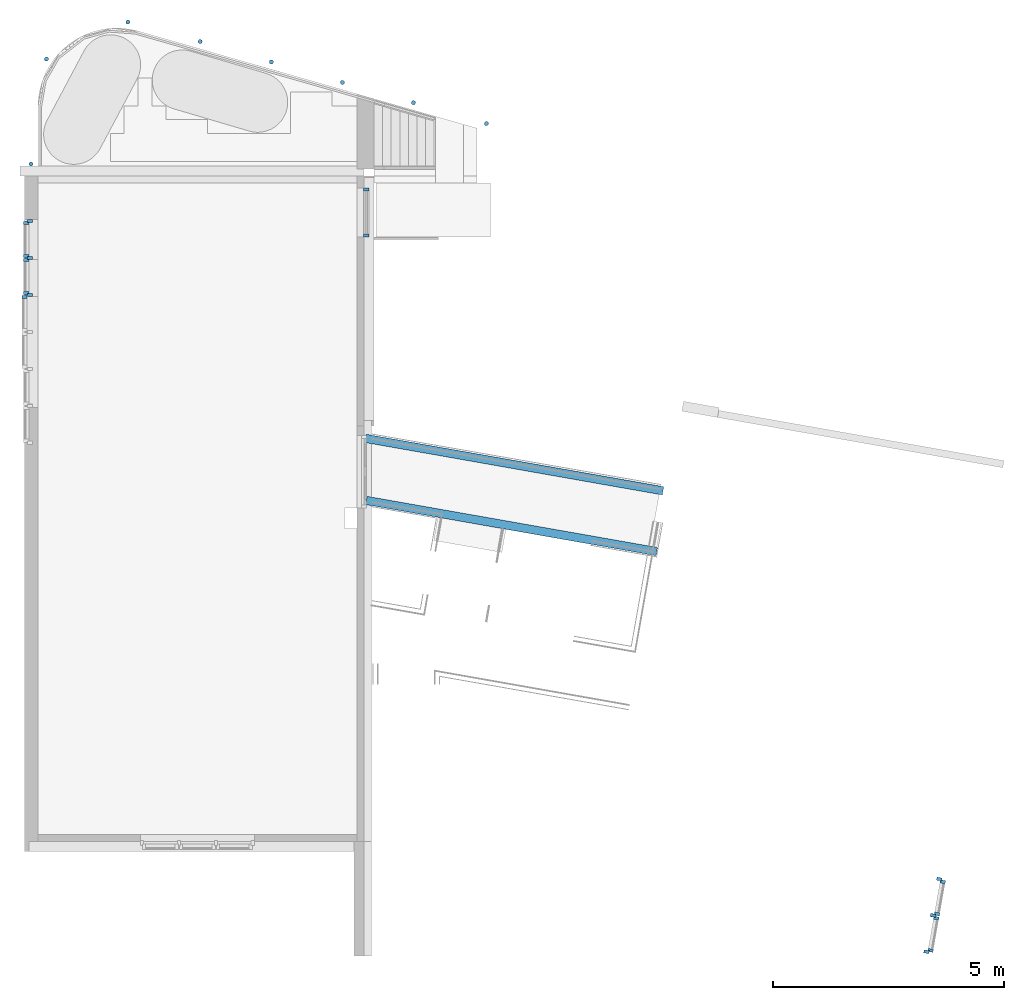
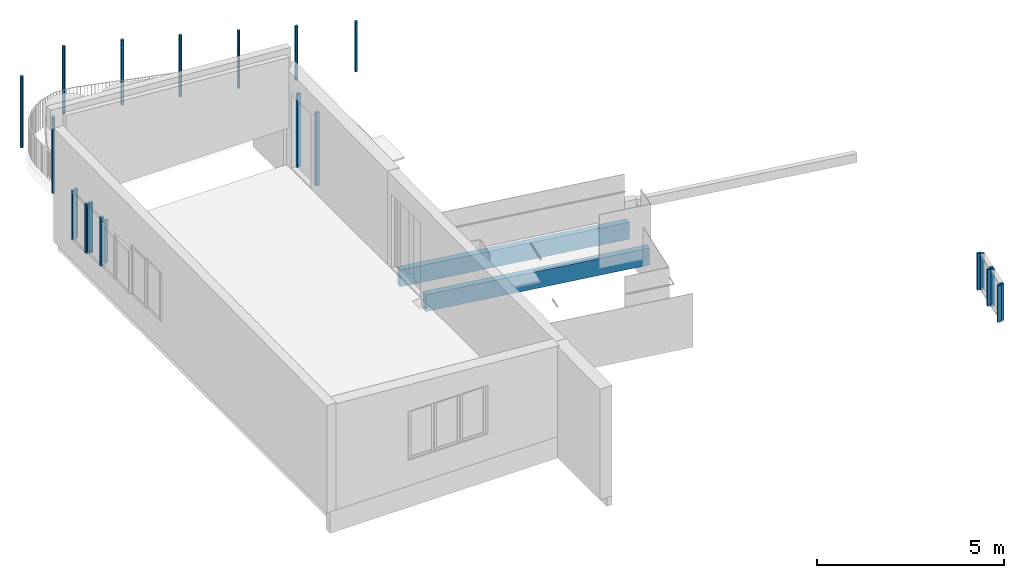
# One storey, part 2 of 9: 27 members, 2 beams, 14 elements without a shape of their own.
"""IFC2X3 building model written with IfcOpenShell, lengths in millimetres."""

from ifc_helpers import new_model, entity, si_unit, converted_unit, derived_unit, direction, frame, frame_2d, origin, origin_2d_with_axis, place, context, subcontext, project, spatial, polyline, rectangle, circle, outline, extrude, source, transform, mapped, material, type_object, type_shapes, element, aggregate, save


model = new_model("IFC2X3")

# Units and contexts
model_context = context("Model", 3, precision=0.01, world=origin(), true_north=direction((6.12303176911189e-17, 1.0)))
body_context = subcontext(model_context, "Body", "Model", "MODEL_VIEW")
ifc_project = project(units=[si_unit("LENGTHUNIT", "METRE", prefix="MILLI"), si_unit("AREAUNIT", "SQUARE_METRE"), si_unit("VOLUMEUNIT", "CUBIC_METRE"), converted_unit("PLANEANGLEUNIT", "DEGREE", entity("IfcRatioMeasure", 0.0174532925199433), si_unit("PLANEANGLEUNIT", "RADIAN"), dimensions=[0, 0, 0, 0, 0, 0, 0]), si_unit("MASSUNIT", "GRAM", prefix="KILO"), derived_unit("MASSDENSITYUNIT", [(si_unit("MASSUNIT", "GRAM", prefix="KILO"), 1), (si_unit("LENGTHUNIT", "METRE"), -3)]), si_unit("TIMEUNIT", "SECOND"), si_unit("FREQUENCYUNIT", "HERTZ"), si_unit("THERMODYNAMICTEMPERATUREUNIT", "DEGREE_CELSIUS"), derived_unit("THERMALTRANSMITTANCEUNIT", [(si_unit("MASSUNIT", "GRAM", prefix="KILO"), 1), (si_unit("THERMODYNAMICTEMPERATUREUNIT", "KELVIN"), -1), (si_unit("TIMEUNIT", "SECOND"), -3)]), derived_unit("VOLUMETRICFLOWRATEUNIT", [(si_unit("LENGTHUNIT", "METRE"), 3), (si_unit("TIMEUNIT", "SECOND"), -1)]), si_unit("ELECTRICCURRENTUNIT", "AMPERE"), si_unit("ELECTRICVOLTAGEUNIT", "VOLT"), si_unit("POWERUNIT", "WATT"), si_unit("FORCEUNIT", "NEWTON", prefix="KILO"), si_unit("ILLUMINANCEUNIT", "LUX"), si_unit("LUMINOUSFLUXUNIT", "LUMEN"), si_unit("LUMINOUSINTENSITYUNIT", "CANDELA"), derived_unit("USERDEFINED", [(si_unit("MASSUNIT", "GRAM", prefix="KILO"), -1), (si_unit("LENGTHUNIT", "METRE"), -2), (si_unit("TIMEUNIT", "SECOND"), 3), (si_unit("LUMINOUSFLUXUNIT", "LUMEN"), 1)]), derived_unit("LINEARVELOCITYUNIT", [(si_unit("LENGTHUNIT", "METRE"), 1), (si_unit("TIMEUNIT", "SECOND"), -1)]), si_unit("PRESSUREUNIT", "PASCAL"), derived_unit("USERDEFINED", [(si_unit("LENGTHUNIT", "METRE"), -2), (si_unit("MASSUNIT", "GRAM", prefix="KILO"), 1), (si_unit("TIMEUNIT", "SECOND"), -2)])], contexts=[model_context])

# Site, building, storey
site_placement = place(None, origin())
site = spatial("IfcSite", under=ifc_project, at=site_placement, Name="<Kadaster Gemeente>;<Kadaster nummer>;<Kadaster sectie>", CompositionType="ELEMENT")
building_placement = place(site_placement, origin())
building = spatial("IfcBuilding", under=site, at=building_placement, Name="JRCZ Middelburg", CompositionType="ELEMENT")
storey_placement = place(building_placement, frame((0.0, 0.0, 3700.0)))
storey = spatial("IfcBuildingStorey", under=building, at=storey_placement, Name="02 tweede verdieping", CompositionType="ELEMENT", Elevation=3700.0)

# Beams
ifc_material_1 = material(Name="Softwood, Lumber")
beam_type = type_object("IfcBeamType", Name="180x550", PredefinedType="BEAM")
beam_1_placement = place(storey_placement, frame((23427.5457609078, 16290.1481056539, 100.0), z_axis=(0.0, 0.0, 1.0), x_axis=(-0.984837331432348, 0.173480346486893, 0.0)))
element("IfcBeam", 1, at=beam_1_placement, inside=storey, type_object=beam_type, material=ifc_material_1, Name="M_Dimension Lumber:180x550", ObjectType="M_Dimension Lumber:180x550", context=body_context, shape_type="SweptSolid", body=[
    extrude(rectangle(XDim=550.0, YDim=180.000000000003, at=frame_2d((-5.40012479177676e-13, -3.76587649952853e-13), x_axis=(1.0, 0.0))), frame((-111.759709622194, 0.0, -425.0), z_axis=(1.0, 0.0, 0.0), x_axis=(0.0, 0.0, -1.0)), (0.0, 0.0, 1.0), 6377.85981919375),
])
beam_2_placement = place(storey_placement, frame((23671.9398573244, 17585.4193425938, 100.0), z_axis=(0.0, 0.0, 1.0), x_axis=(-0.984807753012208, 0.173648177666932, 0.0)))
element("IfcBeam", 2, at=beam_2_placement, inside=storey, type_object=beam_type, material=ifc_material_1, Name="M_Dimension Lumber:180x550", ObjectType="M_Dimension Lumber:180x550", context=body_context, shape_type="SweptSolid", body=[
    extrude(rectangle(XDim=550.0, YDim=180.000000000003, at=frame_2d((-5.40012479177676e-13, 2.1316282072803e-12), x_axis=(1.0, 0.0))), frame((0.0, 0.0, -425.0), z_axis=(1.0, 0.0, 0.0), x_axis=(0.0, 0.0, -1.0)), (0.0, 0.0, 1.0), 6533.0971955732),
])

# Curtain wall, members
curtain_wall_type_1 = type_object("IfcCurtainWallType", Name="Curtain Wall:NLRS_31_CW_Ontwerpkozijn 067x114", PredefinedType="NOTDEFINED")
curtain_wall_1_placement = place(storey_placement, frame((0.0, 0.0, -3700.0)))
curtain_wall_1 = element("IfcCurtainWall", 3, at=curtain_wall_1_placement, inside=storey, type_object=curtain_wall_type_1, Name="Curtain Wall:NLRS_31_CW_Ontwerpkozijn 067x114", ObjectType="Curtain Wall:NLRS_31_CW_Ontwerpkozijn 067x114")
ifc_material_2 = material(Name="RBM_a_kozijn")
member_type_1 = type_object("IfcMemberType", Name="31_CWM_067x114", PredefinedType="MEMBER")
shared_shape_1 = source(origin(), body_context, "Body", "SweptSolid", [
    extrude(rectangle(XDim=113.999999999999, YDim=67.0, at=origin_2d_with_axis()), frame((-33.5, -57.0, -2400.0), z_axis=(0.0, 0.0, 1.0), x_axis=(0.0, -1.0, 0.0)), (0.0, 0.0, 1.0), 2400.0),
])
type_shapes(member_type_1, [shared_shape_1])
member_1_placement = place(storey_placement, frame((17197.0, 23074.0, 0.0), z_axis=(0.0, 0.0, -1.0), x_axis=(0.0, -1.0, 0.0)))
member_1 = element("IfcMember", 4, at=member_1_placement, type_object=member_type_1, material=ifc_material_2, Name="Rectangular Mullion:31_CWM_067x114", ObjectType="Rectangular Mullion:31_CWM_067x114", context=body_context, shape_type="MappedRepresentation", body=[
    mapped(shared_shape_1, transform((0.0, 0.0, 0.0), scale=1.0)),
])
member_type_2 = type_object("IfcMemberType", Name="31_CWM_067x114", PredefinedType="MEMBER")
shared_shape_2 = source(origin(), body_context, "Body", "SweptSolid", [
    extrude(rectangle(XDim=113.999999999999, YDim=67.0, at=origin_2d_with_axis()), frame((-33.5, -57.0, -2400.0), z_axis=(0.0, 0.0, 1.0), x_axis=(0.0, -1.0, 0.0)), (0.0, 0.0, 1.0), 2400.0),
])
type_shapes(member_type_2, [shared_shape_2])
member_2_placement = place(storey_placement, frame((17197.0, 24138.0, 2400.0), z_axis=(0.0, 0.0, 1.0), x_axis=(0.0, 1.0, 0.0)))
member_2 = element("IfcMember", 5, at=member_2_placement, type_object=member_type_2, material=ifc_material_2, Name="Rectangular Mullion:31_CWM_067x114", ObjectType="Rectangular Mullion:31_CWM_067x114", context=body_context, shape_type="MappedRepresentation", body=[
    mapped(shared_shape_2, transform((0.0, 0.0, 0.0), scale=1.0)),
])
aggregate(curtain_wall_1, [member_1, member_2])

curtain_wall_type_2 = type_object("IfcCurtainWallType", PredefinedType="NOTDEFINED")
curtain_wall_2_placement = place(storey_placement, frame((0.0, 0.0, -3700.0)))
curtain_wall_2 = element("IfcCurtainWall", 6, at=curtain_wall_2_placement, inside=storey, type_object=curtain_wall_type_2)
ifc_material_3 = material(Name="RBM_i2_binnenkozijn")
member_type_3 = type_object("IfcMemberType", Name="32_CWM_067x114", PredefinedType="MEMBER")
shared_shape_3 = source(origin(), body_context, "Body", "SweptSolid", [
    extrude(rectangle(XDim=113.999999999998, YDim=67.0000000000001, at=frame_2d((2.22399876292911e-12, -1.56319401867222e-13), x_axis=(1.0, 0.0))), frame((29373.0265848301, 7613.96088318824, 4400.0), z_axis=(0.0, 0.0, 1.0), x_axis=(-0.984807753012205, 0.17364817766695, 0.0)), (0.0, 0.0, 1.0), 1200.0),
])
type_shapes(member_type_3, [shared_shape_3])
member_3_placement = place(storey_placement, frame((0.0, 0.0, -3700.0)))
member_3 = element("IfcMember", 7, at=member_3_placement, type_object=member_type_3, material=ifc_material_3, Name="Rectangular Mullion:32_CWM_067x114", ObjectType="Rectangular Mullion:32_CWM_067x114", context=body_context, shape_type="MappedRepresentation", body=[
    mapped(shared_shape_3, transform((0.0, 0.0, 0.0), scale=1.0)),
])
member_type_4 = type_object("IfcMemberType", Name="32_CWM_067x114", PredefinedType="MEMBER")
shared_shape_4 = source(origin(), body_context, "Body", "SweptSolid", [
    extrude(rectangle(XDim=113.999999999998, YDim=67.0000000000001, at=frame_2d((2.22399876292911e-12, -1.56319401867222e-13), x_axis=(1.0, 0.0))), frame((29511.250534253, 8397.86785458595, 4400.0), z_axis=(0.0, 0.0, 1.0), x_axis=(-0.984807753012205, 0.17364817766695, 0.0)), (0.0, 0.0, 1.0), 1200.0),
])
type_shapes(member_type_4, [shared_shape_4])
member_4_placement = place(storey_placement, frame((0.0, 0.0, -3700.0)))
member_4 = element("IfcMember", 8, at=member_4_placement, type_object=member_type_4, material=ifc_material_3, Name="Rectangular Mullion:32_CWM_067x114", ObjectType="Rectangular Mullion:32_CWM_067x114", context=body_context, shape_type="MappedRepresentation", body=[
    mapped(shared_shape_4, transform((0.0, 0.0, 0.0), scale=1.0)),
])
aggregate(curtain_wall_2, [member_3, member_4])

curtain_wall_type_3 = type_object("IfcCurtainWallType", Name="Curtain Wall:NLRS_31_CW_Ontwerpkozijn 067x114 2", PredefinedType="NOTDEFINED")
curtain_wall_3_placement = place(storey_placement, frame((0.0, 0.0, -3700.0)))
curtain_wall_3 = element("IfcCurtainWall", 9, at=curtain_wall_3_placement, inside=storey, type_object=curtain_wall_type_3, Name="Curtain Wall:NLRS_31_CW_Ontwerpkozijn 067x114 2", ObjectType="Curtain Wall:NLRS_31_CW_Ontwerpkozijn 067x114 2")
member_type_5 = type_object("IfcMemberType", Name="31_CWM_067x114", PredefinedType="MEMBER")
shared_shape_5 = source(origin(), body_context, "Body", "SweptSolid", [
    extrude(outline(polyline([(-37.0, -65.3333333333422), (30.0, -65.3333333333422), (30.0, 16.6666666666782), (7.0, 16.6666666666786), (7.0, 48.6666666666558), (-37.0, 48.6666666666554), (-37.0, -65.3333333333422)])), frame((29576.7652875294, 8345.19105816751, 4400.0), z_axis=(0.0, 0.0, 1.0), x_axis=(0.173648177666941, 0.984807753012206, 0.0)), (0.0, 0.0, 1.0), 1200.0),
])
type_shapes(member_type_5, [shared_shape_5])
member_5_placement = place(storey_placement, frame((0.0, 0.0, -3700.0)))
member_5 = element("IfcMember", 10, at=member_5_placement, type_object=member_type_5, material=ifc_material_2, Name="Rectangular Mullion:31_CWM_067x114", ObjectType="Rectangular Mullion:31_CWM_067x114", context=body_context, shape_type="MappedRepresentation", body=[
    mapped(shared_shape_5, transform((0.0, 0.0, 0.0), scale=1.0)),
])
member_type_6 = type_object("IfcMemberType", Name="31_CWM_067x114", PredefinedType="MEMBER")
shared_shape_6 = source(origin(), body_context, "Body", "SweptSolid", [
    extrude(outline(polyline([(-30.0, -65.3333333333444), (37.0, -65.3333333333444), (37.0, 48.6666666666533), (-7.0, 48.666666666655), (-7.0, 16.6666666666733), (-30.0, 16.666666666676), (-30.0, -65.3333333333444)])), frame((29452.6068404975, 7641.05351476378, 4400.0), z_axis=(0.0, 0.0, 1.0), x_axis=(0.173648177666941, 0.984807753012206, 0.0)), (0.0, 0.0, 1.0), 1200.0),
])
type_shapes(member_type_6, [shared_shape_6])
member_6_placement = place(storey_placement, frame((0.0, 0.0, -3700.0)))
member_6 = element("IfcMember", 11, at=member_6_placement, type_object=member_type_6, material=ifc_material_2, Name="Rectangular Mullion:31_CWM_067x114", ObjectType="Rectangular Mullion:31_CWM_067x114", context=body_context, shape_type="MappedRepresentation", body=[
    mapped(shared_shape_6, transform((0.0, 0.0, 0.0), scale=1.0)),
])
aggregate(curtain_wall_3, [member_5, member_6])

curtain_wall_4_placement = place(storey_placement, frame((0.0, 0.0, -3700.0)))
curtain_wall_4 = element("IfcCurtainWall", 12, at=curtain_wall_4_placement, inside=storey, type_object=curtain_wall_type_2)
member_type_7 = type_object("IfcMemberType", Name="32_CWM_067x114", PredefinedType="MEMBER")
shared_shape_7 = source(origin(), body_context, "Body", "SweptSolid", [
    extrude(rectangle(XDim=113.999999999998, YDim=67.0000000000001, at=frame_2d((-2.22399876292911e-12, 1.56319401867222e-13), x_axis=(1.0, 0.0))), frame((29511.9451269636, 8401.80708559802, 4400.0), z_axis=(0.0, 0.0, 1.0), x_axis=(-0.984807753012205, 0.17364817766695, 0.0)), (0.0, 0.0, 1.0), 1200.0),
])
type_shapes(member_type_7, [shared_shape_7])
member_7_placement = place(storey_placement, frame((0.0, 0.0, -3700.0)))
member_7 = element("IfcMember", 13, at=member_7_placement, type_object=member_type_7, material=ifc_material_3, Name="Rectangular Mullion:32_CWM_067x114", ObjectType="Rectangular Mullion:32_CWM_067x114", context=body_context, shape_type="MappedRepresentation", body=[
    mapped(shared_shape_7, transform((0.0, 0.0, 0.0), scale=1.0)),
])
member_type_8 = type_object("IfcMemberType", Name="32_CWM_067x114", PredefinedType="MEMBER")
shared_shape_8 = source(origin(), body_context, "Body", "SweptSolid", [
    extrude(rectangle(XDim=113.999999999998, YDim=67.0000000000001, at=frame_2d((2.03925765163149e-12, 9.09494701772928e-13), x_axis=(1.0, 0.0))), frame((29650.1690763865, 9185.71405699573, 4400.0), z_axis=(0.0, 0.0, 1.0), x_axis=(-0.984807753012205, 0.17364817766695, 0.0)), (0.0, 0.0, 1.0), 1200.0),
])
type_shapes(member_type_8, [shared_shape_8])
member_8_placement = place(storey_placement, frame((0.0, 0.0, -3700.0)))
member_8 = element("IfcMember", 14, at=member_8_placement, type_object=member_type_8, material=ifc_material_3, Name="Rectangular Mullion:32_CWM_067x114", ObjectType="Rectangular Mullion:32_CWM_067x114", context=body_context, shape_type="MappedRepresentation", body=[
    mapped(shared_shape_8, transform((0.0, 0.0, 0.0), scale=1.0)),
])
aggregate(curtain_wall_4, [member_7, member_8])

curtain_wall_5_placement = place(storey_placement, frame((0.0, 0.0, -3700.0)))
curtain_wall_5 = element("IfcCurtainWall", 15, at=curtain_wall_5_placement, inside=storey, type_object=curtain_wall_type_3, Name="Curtain Wall:NLRS_31_CW_Ontwerpkozijn 067x114 2", ObjectType="Curtain Wall:NLRS_31_CW_Ontwerpkozijn 067x114 2")
member_type_9 = type_object("IfcMemberType", Name="31_CWM_067x114", PredefinedType="MEMBER")
shared_shape_9 = source(origin(), body_context, "Body", "SweptSolid", [
    extrude(outline(polyline([(-37.0, -65.3333333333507), (30.0, -65.3333333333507), (30.0, 16.6666666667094), (7.0, 16.6666666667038), (7.0, 48.6666666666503), (-37.0, 48.6666666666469), (-37.0, -65.3333333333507)])), frame((29715.6838296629, 9133.03726057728, 4400.0), z_axis=(0.0, 0.0, 1.0), x_axis=(0.173648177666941, 0.984807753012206, 0.0)), (0.0, 0.0, 1.0), 1200.0),
])
type_shapes(member_type_9, [shared_shape_9])
member_9_placement = place(storey_placement, frame((0.0, 0.0, -3700.0)))
member_9 = element("IfcMember", 16, at=member_9_placement, type_object=member_type_9, material=ifc_material_2, Name="Rectangular Mullion:31_CWM_067x114", ObjectType="Rectangular Mullion:31_CWM_067x114", context=body_context, shape_type="MappedRepresentation", body=[
    mapped(shared_shape_9, transform((0.0, 0.0, 0.0), scale=1.0)),
])
member_type_10 = type_object("IfcMemberType", Name="31_CWM_067x114", PredefinedType="MEMBER")
shared_shape_10 = source(origin(), body_context, "Body", "SweptSolid", [
    extrude(outline(polyline([(-30.0, -65.3333333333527), (37.0, -65.3333333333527), (37.0, 48.6666666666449), (-7.0, 48.6666666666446), (-7.0, 16.6666666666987), (-30.0, 16.6666666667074), (-30.0, -65.3333333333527)])), frame((29591.525382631, 8428.89971717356, 4400.0), z_axis=(0.0, 0.0, 1.0), x_axis=(0.173648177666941, 0.984807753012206, 0.0)), (0.0, 0.0, 1.0), 1200.0),
])
type_shapes(member_type_10, [shared_shape_10])
member_10_placement = place(storey_placement, frame((0.0, 0.0, -3700.0)))
member_10 = element("IfcMember", 17, at=member_10_placement, type_object=member_type_10, material=ifc_material_2, Name="Rectangular Mullion:31_CWM_067x114", ObjectType="Rectangular Mullion:31_CWM_067x114", context=body_context, shape_type="MappedRepresentation", body=[
    mapped(shared_shape_10, transform((0.0, 0.0, 0.0), scale=1.0)),
])
aggregate(curtain_wall_5, [member_9, member_10])

# Curtain wall, member
curtain_wall_6_placement = place(storey_placement, frame((0.0, 0.0, -3700.0)))
curtain_wall_6 = element("IfcCurtainWall", 18, at=curtain_wall_6_placement, inside=storey, type_object=curtain_wall_type_2)
member_type_11 = type_object("IfcMemberType", Name="32_CWM_067x114", PredefinedType="MEMBER")
shared_shape_11 = source(origin(), body_context, "Body", "SweptSolid", [
    extrude(rectangle(XDim=67.0000000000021, YDim=114.0, at=origin_2d_with_axis()), frame((9980.0, 22620.8639489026, 4400.0), z_axis=(0.0, 0.0, 1.0), x_axis=(0.0, -1.0, 0.0)), (0.0, 0.0, 1.0), 1600.0),
])
type_shapes(member_type_11, [shared_shape_11])
member_11_placement = place(storey_placement, frame((0.0, 0.0, -3700.0)))
member_11 = element("IfcMember", 19, at=member_11_placement, type_object=member_type_11, material=ifc_material_3, Name="Rectangular Mullion:32_CWM_067x114", ObjectType="Rectangular Mullion:32_CWM_067x114", context=body_context, shape_type="MappedRepresentation", body=[
    mapped(shared_shape_11, transform((0.0, 0.0, 0.0), scale=1.0)),
])
aggregate(curtain_wall_6, [member_11])

# Curtain wall, members
curtain_wall_7_placement = place(storey_placement, frame((0.0, 0.0, -3700.0)))
curtain_wall_7 = element("IfcCurtainWall", 20, at=curtain_wall_7_placement, inside=storey, type_object=curtain_wall_type_3, Name="Curtain Wall:NLRS_31_CW_Ontwerpkozijn 067x114 2", ObjectType="Curtain Wall:NLRS_31_CW_Ontwerpkozijn 067x114 2")
member_type_12 = type_object("IfcMemberType", Name="31_CWM_067x114", PredefinedType="MEMBER")
shared_shape_12 = source(origin(), body_context, "Body", "SweptSolid", [
    extrude(outline(polyline([(-37.0, -65.3333333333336), (30.0, -65.3333333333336), (30.0, 16.666666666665), (7.0, 16.666666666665), (7.0, 48.6666666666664), (-37.0, 48.6666666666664), (-37.0, -65.3333333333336)])), frame((9906.33333333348, 21865.3639489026, 4400.0), z_axis=(0.0, 0.0, 1.0), x_axis=(0.0, -1.0, 0.0)), (0.0, 0.0, 1.0), 1600.0),
])
type_shapes(member_type_12, [shared_shape_12])
member_12_placement = place(storey_placement, frame((0.0, 0.0, -3700.0)))
member_12 = element("IfcMember", 21, at=member_12_placement, type_object=member_type_12, material=ifc_material_2, Name="Rectangular Mullion:31_CWM_067x114", ObjectType="Rectangular Mullion:31_CWM_067x114", context=body_context, shape_type="MappedRepresentation", body=[
    mapped(shared_shape_12, transform((0.0, 0.0, 0.0), scale=1.0)),
])
member_type_13 = type_object("IfcMemberType", Name="31_CWM_067x114", PredefinedType="MEMBER")
shared_shape_13 = source(origin(), body_context, "Body", "SweptSolid", [
    extrude(outline(polyline([(-30.0, -65.3333333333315), (37.0, -65.3333333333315), (37.0, 48.6666666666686), (-7.0, 48.6666666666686), (-7.0, 16.6666666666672), (-30.0, 16.6666666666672), (-30.0, -65.3333333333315)])), frame((9906.33333333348, 22580.3639489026, 4400.0), z_axis=(0.0, 0.0, 1.0), x_axis=(0.0, -1.0, 0.0)), (0.0, 0.0, 1.0), 1600.0),
])
type_shapes(member_type_13, [shared_shape_13])
member_13_placement = place(storey_placement, frame((0.0, 0.0, -3700.0)))
member_13 = element("IfcMember", 22, at=member_13_placement, type_object=member_type_13, material=ifc_material_2, Name="Rectangular Mullion:31_CWM_067x114", ObjectType="Rectangular Mullion:31_CWM_067x114", context=body_context, shape_type="MappedRepresentation", body=[
    mapped(shared_shape_13, transform((0.0, 0.0, 0.0), scale=1.0)),
])
aggregate(curtain_wall_7, [member_12, member_13])

# Curtain wall, member
curtain_wall_8_placement = place(storey_placement, frame((0.0, 0.0, -3700.0)))
curtain_wall_8 = element("IfcCurtainWall", 23, at=curtain_wall_8_placement, inside=storey, type_object=curtain_wall_type_2)
member_type_14 = type_object("IfcMemberType", Name="32_CWM_067x114", PredefinedType="MEMBER")
shared_shape_14 = source(origin(), body_context, "Body", "SweptSolid", [
    extrude(rectangle(XDim=67.0000000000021, YDim=114.0, at=frame_2d((0.0, 1.08002495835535e-12), x_axis=(1.0, 0.0))), frame((9980.0, 21820.8639489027, 4500.0), z_axis=(0.0, 0.0, 1.0), x_axis=(0.0, -1.0, 0.0)), (0.0, 0.0, 1.0), 1400.0),
])
type_shapes(member_type_14, [shared_shape_14])
member_14_placement = place(storey_placement, frame((0.0, 0.0, -3700.0)))
member_14 = element("IfcMember", 24, at=member_14_placement, type_object=member_type_14, material=ifc_material_3, Name="Rectangular Mullion:32_CWM_067x114", ObjectType="Rectangular Mullion:32_CWM_067x114", context=body_context, shape_type="MappedRepresentation", body=[
    mapped(shared_shape_14, transform((0.0, 0.0, 0.0), scale=1.0)),
])
aggregate(curtain_wall_8, [member_14])

curtain_wall_9_placement = place(storey_placement, frame((0.0, 0.0, -3700.0)))
curtain_wall_9 = element("IfcCurtainWall", 25, at=curtain_wall_9_placement, inside=storey, type_object=curtain_wall_type_3, Name="Curtain Wall:NLRS_31_CW_Ontwerpkozijn 067x114 2", ObjectType="Curtain Wall:NLRS_31_CW_Ontwerpkozijn 067x114 2")
member_type_15 = type_object("IfcMemberType", Name="31_CWM_067x114", PredefinedType="MEMBER")
shared_shape_15 = source(origin(), body_context, "Body", "SweptSolid", [
    extrude(rectangle(XDim=67.0000000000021, YDim=114.0, at=frame_2d((2.16360263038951e-12, 1.08002495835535e-12), x_axis=(1.0, 0.0))), frame((9858.0, 21776.8639489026, 4500.0), z_axis=(0.0, 0.0, 1.0), x_axis=(0.0, -1.0, 0.0)), (0.0, 0.0, 1.0), 1400.0),
])
type_shapes(member_type_15, [shared_shape_15])
member_15_placement = place(storey_placement, frame((0.0, 0.0, -3700.0)))
member_15 = element("IfcMember", 26, at=member_15_placement, type_object=member_type_15, material=ifc_material_2, Name="Rectangular Mullion:31_CWM_067x114", ObjectType="Rectangular Mullion:31_CWM_067x114", context=body_context, shape_type="MappedRepresentation", body=[
    mapped(shared_shape_15, transform((0.0, 0.0, 0.0), scale=1.0)),
])
aggregate(curtain_wall_9, [member_15])

# Curtain wall, members
curtain_wall_10_placement = place(storey_placement, frame((0.0, 0.0, -3700.0)))
curtain_wall_10 = element("IfcCurtainWall", 27, at=curtain_wall_10_placement, inside=storey, type_object=curtain_wall_type_2)
member_type_16 = type_object("IfcMemberType", Name="32_CWM_067x114", PredefinedType="MEMBER")
shared_shape_16 = source(origin(), body_context, "Body", "SweptSolid", [
    extrude(rectangle(XDim=67.0000000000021, YDim=114.0, at=origin_2d_with_axis()), frame((9980.0, 23420.8639489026, 4350.0), z_axis=(0.0, 0.0, 1.0), x_axis=(0.0, -1.0, 0.0)), (0.0, 0.0, 1.0), 1600.0),
])
type_shapes(member_type_16, [shared_shape_16])
member_16_placement = place(storey_placement, frame((0.0, 0.0, -3700.0)))
member_16 = element("IfcMember", 28, at=member_16_placement, type_object=member_type_16, material=ifc_material_3, Name="Rectangular Mullion:32_CWM_067x114", ObjectType="Rectangular Mullion:32_CWM_067x114", context=body_context, shape_type="MappedRepresentation", body=[
    mapped(shared_shape_16, transform((0.0, 0.0, 0.0), scale=1.0)),
])
member_type_17 = type_object("IfcMemberType", Name="32_CWM_067x114", PredefinedType="MEMBER")
shared_shape_17 = source(origin(), body_context, "Body", "SweptSolid", [
    extrude(rectangle(XDim=67.0000000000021, YDim=114.0, at=origin_2d_with_axis()), frame((9980.0, 22624.8639489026, 4350.0), z_axis=(0.0, 0.0, 1.0), x_axis=(0.0, -1.0, 0.0)), (0.0, 0.0, 1.0), 1600.0),
])
type_shapes(member_type_17, [shared_shape_17])
member_17_placement = place(storey_placement, frame((0.0, 0.0, -3700.0)))
member_17 = element("IfcMember", 29, at=member_17_placement, type_object=member_type_17, material=ifc_material_3, Name="Rectangular Mullion:32_CWM_067x114", ObjectType="Rectangular Mullion:32_CWM_067x114", context=body_context, shape_type="MappedRepresentation", body=[
    mapped(shared_shape_17, transform((0.0, 0.0, 0.0), scale=1.0)),
])
aggregate(curtain_wall_10, [member_16, member_17])

curtain_wall_11_placement = place(storey_placement, frame((0.0, 0.0, -3700.0)))
curtain_wall_11 = element("IfcCurtainWall", 30, at=curtain_wall_11_placement, inside=storey, type_object=curtain_wall_type_3, Name="Curtain Wall:NLRS_31_CW_Ontwerpkozijn 067x114 2", ObjectType="Curtain Wall:NLRS_31_CW_Ontwerpkozijn 067x114 2")
member_type_18 = type_object("IfcMemberType", Name="31_CWM_067x114", PredefinedType="MEMBER")
shared_shape_18 = source(origin(), body_context, "Body", "SweptSolid", [
    extrude(outline(polyline([(-37.0, -65.3333333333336), (30.0, -65.3333333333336), (30.0, 16.666666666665), (7.0, 16.666666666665), (7.0, 48.6666666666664), (-37.0, 48.6666666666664), (-37.0, -65.3333333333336)])), frame((9906.33333333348, 22665.3639489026, 4350.0), z_axis=(0.0, 0.0, 1.0), x_axis=(0.0, -1.0, 0.0)), (0.0, 0.0, 1.0), 1600.0),
])
type_shapes(member_type_18, [shared_shape_18])
member_18_placement = place(storey_placement, frame((0.0, 0.0, -3700.0)))
member_18 = element("IfcMember", 31, at=member_18_placement, type_object=member_type_18, material=ifc_material_2, Name="Rectangular Mullion:31_CWM_067x114", ObjectType="Rectangular Mullion:31_CWM_067x114", context=body_context, shape_type="MappedRepresentation", body=[
    mapped(shared_shape_18, transform((0.0, 0.0, 0.0), scale=1.0)),
])
member_type_19 = type_object("IfcMemberType", Name="31_CWM_067x114", PredefinedType="MEMBER")
shared_shape_19 = source(origin(), body_context, "Body", "SweptSolid", [
    extrude(outline(polyline([(-30.0, -65.3333333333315), (37.0, -65.3333333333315), (37.0, 48.6666666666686), (-7.0, 48.6666666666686), (-7.0, 16.6666666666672), (-30.0, 16.6666666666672), (-30.0, -65.3333333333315)])), frame((9906.33333333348, 23380.3639489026, 4350.0), z_axis=(0.0, 0.0, 1.0), x_axis=(0.0, -1.0, 0.0)), (0.0, 0.0, 1.0), 1600.0),
])
type_shapes(member_type_19, [shared_shape_19])
member_19_placement = place(storey_placement, frame((0.0, 0.0, -3700.0)))
member_19 = element("IfcMember", 32, at=member_19_placement, type_object=member_type_19, material=ifc_material_2, Name="Rectangular Mullion:31_CWM_067x114", ObjectType="Rectangular Mullion:31_CWM_067x114", context=body_context, shape_type="MappedRepresentation", body=[
    mapped(shared_shape_19, transform((0.0, 0.0, 0.0), scale=1.0)),
])
aggregate(curtain_wall_11, [member_18, member_19])

curtain_wall_type_4 = type_object("IfcCurtainWallType", PredefinedType="NOTDEFINED")
curtain_wall_12_placement = place(storey_placement, frame((0.0, 0.0, -3700.0)))
curtain_wall_12 = element("IfcCurtainWall", 33, at=curtain_wall_12_placement, inside=storey, type_object=curtain_wall_type_4)
ifc_material_4 = material(Name="Staal")
member_type_20 = type_object("IfcMemberType", Name="kolom rond 90", PredefinedType="MEMBER")
shared_shape_20 = source(origin(), body_context, "Body", "SweptSolid", [
    extrude(circle(Radius=45.0, at=frame_2d((-4.22994972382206e-15, 6.84695561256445e-14), x_axis=(1.0, 0.0))), frame((0.0, 0.0, -2118.58799239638), z_axis=(0.0, 0.0, 1.0), x_axis=(-1.0, 0.0, 0.0)), (0.0, 0.0, 1.0), 2118.58799239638),
])
type_shapes(member_type_20, [shared_shape_20])
placement = place(building_placement, frame((0.0, 0.0, 6000.0)))
member_20_placement = place(placement, frame((13660.3432694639, 27304.3793207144, -950.0), z_axis=(0.0, 0.0, -1.0), x_axis=(0.96126169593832, -0.275637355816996, 0.0)))
member_20 = element("IfcMember", 34, at=member_20_placement, type_object=member_type_20, material=ifc_material_4, Name="Rectangular Mullion:kolom rond 90", ObjectType="Rectangular Mullion:kolom rond 90", context=body_context, shape_type="MappedRepresentation", body=[
    mapped(shared_shape_20, transform((0.0, 0.0, 0.0), scale=1.0)),
])
member_type_21 = type_object("IfcMemberType", Name="kolom rond 90", PredefinedType="MEMBER")
shared_shape_21 = source(origin(), body_context, "Body", "SweptSolid", [
    extrude(circle(Radius=45.0, at=frame_2d((-4.22994972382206e-15, 6.84695561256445e-14), x_axis=(1.0, 0.0))), frame((0.0, 0.0, -1997.85158838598), z_axis=(0.0, 0.0, 1.0), x_axis=(-1.0, 0.0, 0.0)), (0.0, 0.0, 1.0), 1997.85158838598),
])
type_shapes(member_type_21, [shared_shape_21])
member_21_placement = place(placement, frame((15199.3232449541, 26863.0839139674, -950.0), z_axis=(0.0, 0.0, -1.0), x_axis=(0.96126169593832, -0.275637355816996, 0.0)))
member_21 = element("IfcMember", 35, at=member_21_placement, type_object=member_type_21, material=ifc_material_4, Name="Rectangular Mullion:kolom rond 90", ObjectType="Rectangular Mullion:kolom rond 90", context=body_context, shape_type="MappedRepresentation", body=[
    mapped(shared_shape_21, transform((0.0, 0.0, 0.0), scale=1.0)),
])
member_type_22 = type_object("IfcMemberType", Name="kolom rond 90", PredefinedType="MEMBER")
shared_shape_22 = source(origin(), body_context, "Body", "SweptSolid", [
    extrude(circle(Radius=45.0, at=frame_2d((-4.22994972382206e-15, 6.84695561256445e-14), x_axis=(1.0, 0.0))), frame((0.0, 0.0, -1877.19059751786), z_axis=(0.0, 0.0, 1.0), x_axis=(-1.0, 0.0, 0.0)), (0.0, 0.0, 1.0), 1877.19059751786),
])
type_shapes(member_type_22, [shared_shape_22])
member_22_placement = place(placement, frame((16737.3419584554, 26422.0641446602, -950.0), z_axis=(0.0, 0.0, -1.0), x_axis=(0.96126169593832, -0.275637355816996, 0.0)))
member_22 = element("IfcMember", 36, at=member_22_placement, type_object=member_type_22, material=ifc_material_4, Name="Rectangular Mullion:kolom rond 90", ObjectType="Rectangular Mullion:kolom rond 90", context=body_context, shape_type="MappedRepresentation", body=[
    mapped(shared_shape_22, transform((0.0, 0.0, 0.0), scale=1.0)),
])
member_type_23 = type_object("IfcMemberType", Name="kolom rond 90", PredefinedType="MEMBER")
shared_shape_23 = source(origin(), body_context, "Body", "SweptSolid", [
    extrude(circle(Radius=45.0, at=frame_2d((-4.22994972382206e-15, 6.84695561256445e-14), x_axis=(1.0, 0.0))), frame((0.0, 0.0, -1756.71813944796), z_axis=(0.0, 0.0, 1.0), x_axis=(-1.0, 0.0, 0.0)), (0.0, 0.0, 1.0), 1756.71813944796),
])
type_shapes(member_type_23, [shared_shape_23])
member_23_placement = place(placement, frame((18272.9575177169, 25981.7334687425, -950.0), z_axis=(0.0, 0.0, -1.0), x_axis=(0.96126169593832, -0.275637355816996, 0.0)))
member_23 = element("IfcMember", 37, at=member_23_placement, type_object=member_type_23, material=ifc_material_4, Name="Rectangular Mullion:kolom rond 90", ObjectType="Rectangular Mullion:kolom rond 90", context=body_context, shape_type="MappedRepresentation", body=[
    mapped(shared_shape_23, transform((0.0, 0.0, 0.0), scale=1.0)),
])
member_type_24 = type_object("IfcMemberType", Name="kolom rond 90", PredefinedType="MEMBER")
shared_shape_24 = source(origin(), body_context, "Body", "SweptSolid", [
    extrude(circle(Radius=45.0, at=frame_2d((-4.22994972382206e-15, 6.84695561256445e-14), x_axis=(1.0, 0.0))), frame((0.0, 0.0, -1632.83805535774), z_axis=(0.0, 0.0, 1.0), x_axis=(-1.0, 0.0, 0.0)), (0.0, 0.0, 1.0), 1632.83805535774),
])
type_shapes(member_type_24, [shared_shape_24])
member_24_placement = place(placement, frame((19852.0087602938, 25528.9478110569, -950.0), z_axis=(0.0, 0.0, -1.0), x_axis=(0.96126169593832, -0.275637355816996, 0.0)))
member_24 = element("IfcMember", 38, at=member_24_placement, type_object=member_type_24, material=ifc_material_4, Name="Rectangular Mullion:kolom rond 90", ObjectType="Rectangular Mullion:kolom rond 90", context=body_context, shape_type="MappedRepresentation", body=[
    mapped(shared_shape_24, transform((0.0, 0.0, 0.0), scale=1.0)),
])
aggregate(curtain_wall_12, [member_20, member_21, member_22, member_23, member_24])

# Curtain wall, member
curtain_wall_13_placement = place(storey_placement, frame((0.0, 0.0, -3700.0)))
curtain_wall_13 = element("IfcCurtainWall", 39, at=curtain_wall_13_placement, inside=storey, type_object=curtain_wall_type_4)
member_type_25 = type_object("IfcMemberType", Name="kolom rond 90", PredefinedType="MEMBER")
shared_shape_25 = source(origin(), body_context, "Body", "SweptSolid", [
    extrude(circle(Radius=45.0, at=frame_2d((-2.14795178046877e-28, 6.84695561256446e-14), x_axis=(1.0, 0.0))), frame((-45.0, 0.0, -2494.51433785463)), (0.0, 0.0, 1.0), 2494.51433785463),
])
type_shapes(member_type_25, [shared_shape_25])
member_25_placement = place(placement, frame((10000.3409441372, 24611.3697450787, 1544.51433785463), z_axis=(0.0, 0.0, 1.0), x_axis=(0.0, -1.0, 0.0)))
member_25 = element("IfcMember", 40, at=member_25_placement, type_object=member_type_25, material=ifc_material_4, Name="Rectangular Mullion:kolom rond 90", ObjectType="Rectangular Mullion:kolom rond 90", context=body_context, shape_type="MappedRepresentation", body=[
    mapped(shared_shape_25, transform((0.0, 0.0, 0.0), scale=1.0)),
])
aggregate(curtain_wall_13, [member_25])

# Curtain wall, members
curtain_wall_14_placement = place(storey_placement, frame((0.0, 0.0, -3700.0)))
curtain_wall_14 = element("IfcCurtainWall", 41, at=curtain_wall_14_placement, inside=storey, type_object=curtain_wall_type_4)
member_type_26 = type_object("IfcMemberType", Name="kolom rond 90", PredefinedType="MEMBER")
shared_shape_26 = source(origin(), body_context, "Body", "SweptSolid", [
    extrude(circle(Radius=45.0, at=frame_2d((4.22994972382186e-15, -6.42396064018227e-14), x_axis=(1.0, 0.0))), frame((0.0, 0.0, -2320.82480281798)), (0.0, 0.0, 1.0), 2320.82480281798),
])
type_shapes(member_type_26, [shared_shape_26])
member_26_placement = place(storey_placement, frame((10333.3778520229, 26925.3119040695, 1350.0), z_axis=(0.0, 0.0, -1.0), x_axis=(0.567982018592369, 0.82304096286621, 0.0)))
member_26 = element("IfcMember", 42, at=member_26_placement, type_object=member_type_26, material=ifc_material_4, Name="Rectangular Mullion:kolom rond 90", ObjectType="Rectangular Mullion:kolom rond 90", context=body_context, shape_type="MappedRepresentation", body=[
    mapped(shared_shape_26, transform((0.0, 0.0, 0.0), scale=1.0)),
])
member_type_27 = type_object("IfcMemberType", Name="kolom rond 90", PredefinedType="MEMBER")
shared_shape_27 = source(origin(), body_context, "Body", "SweptSolid", [
    extrude(circle(Radius=45.0, at=frame_2d((-4.22994972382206e-15, 6.84695561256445e-14), x_axis=(1.0, 0.0))), frame((0.0, 0.0, -2200.0414871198), z_axis=(0.0, 0.0, 1.0), x_axis=(-1.0, 0.0, 0.0)), (0.0, 0.0, 1.0), 2200.0414871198),
])
type_shapes(member_type_27, [shared_shape_27])
member_27_placement = place(storey_placement, frame((12097.4369088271, 27726.0375567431, 1350.0), z_axis=(0.0, 0.0, -1.0), x_axis=(0.993447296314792, -0.114291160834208, 0.0)))
member_27 = element("IfcMember", 43, at=member_27_placement, type_object=member_type_27, material=ifc_material_4, Name="Rectangular Mullion:kolom rond 90", ObjectType="Rectangular Mullion:kolom rond 90", context=body_context, shape_type="MappedRepresentation", body=[
    mapped(shared_shape_27, transform((0.0, 0.0, 0.0), scale=1.0)),
])
aggregate(curtain_wall_14, [member_26, member_27])

save(model, "model.ifc")
